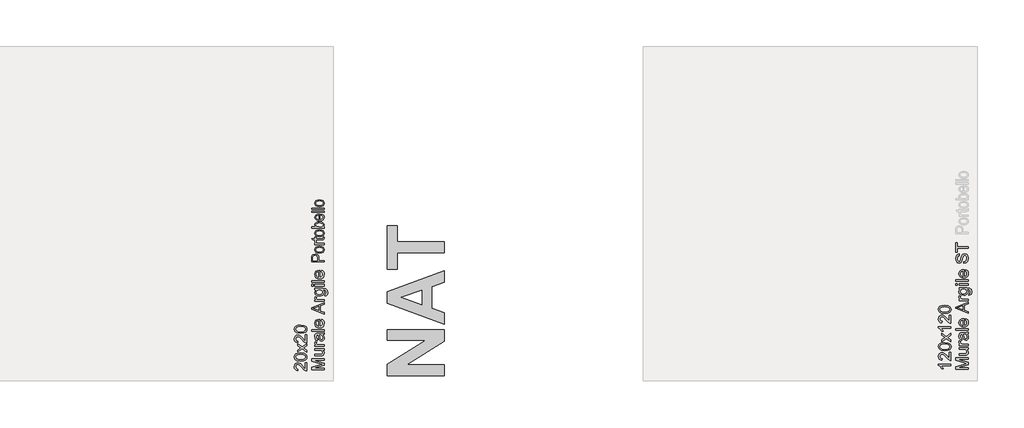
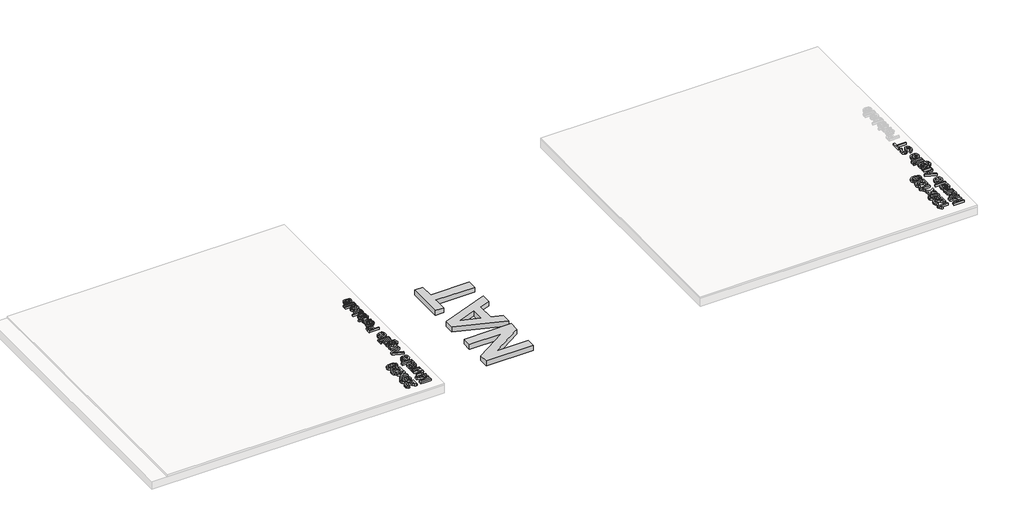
# One storey, part 9 of 21: 6 proxies.
"""IFC4 building model written with IfcOpenShell, lengths in millimetres."""

from ifc_helpers import new_model, si_unit, frame, origin, origin_with_axes, place, context, project, spatial, polyline, outline, extrude, element, save

model = new_model("IFC4")

# Units and contexts
model_context = context("Model", 3, world=origin())
ifc_project = project(units=[si_unit("LENGTHUNIT", "METRE", prefix="MILLI")], contexts=[model_context])

# Site, building, storey
site = spatial("IfcSite", under=ifc_project)
building = spatial("IfcBuilding", under=site)
storey = spatial("IfcBuildingStorey", under=building, Name="PORTOBELLO - SHOWROOM", Elevation=0.0)

# Proxies
placement = place(None, origin())
element("IfcBuildingElementProxy", 1, Name="10mm Arial", ObjectType="10mm Arial", at=placement, inside=storey, context=model_context, shape_type="SweptSolid", body=[
    extrude(outline(polyline([(17958.3969349, 10363.8882156), (17857.9406247, 10363.8882156), (17857.9406247, 10385.421575), (17928.7456461, 10406.0229667), (17943.5345023, 10410.192296), (17927.5193727, 10414.6804564), (17857.9406247, 10434.8894406), (17857.9406247, 10456.4963765), (17958.3969349, 10456.4963765), (17958.3969349, 10443.9393377), (17870.4976635, 10443.9393377), (17958.3969349, 10418.7026328), (17958.3969349, 10401.7064847), (17870.4976635, 10376.4452543), (17958.3969349, 10376.4452543), (17958.3969349, 10363.8882156)])), origin_with_axes(), (0.0, 0.0, 1.0), 20.0),
    extrude(outline(polyline([(17958.3969349, 10523.9904599), (17945.7172688, 10523.9904599), (17956.4042407, 10514.1557479), (17959.9665647, 10501.328929), (17957.4649672, 10489.5199169), (17951.1864478, 10481.3774621), (17941.940347, 10477.6373285), (17930.266225, 10476.9015645), (17884.6243321, 10476.9015645), (17884.6243321, 10489.4586032), (17924.3555876, 10489.4586032), (17937.157881, 10490.2188927), (17944.6749365, 10495.1852996), (17947.409526, 10504.541765), (17944.6136228, 10515.0264019), (17936.9984655, 10521.9548462), (17923.0066869, 10523.9904599), (17884.6243321, 10523.9904599), (17884.6243321, 10536.5474986), (17958.3969349, 10536.5474986), (17958.3969349, 10523.9904599)])), origin_with_axes(), (0.0, 0.0, 1.0), 20.0),
    extrude(outline(polyline([(17958.3969349, 10553.8134269), (17884.6243321, 10553.8134269), (17884.6243321, 10564.8008359), (17895.5381646, 10564.8008359), (17885.4827234, 10572.5999342), (17883.0547023, 10580.4480834), (17886.9297259, 10593.0541731), (17898.186915, 10588.8603183), (17895.611741, 10580.0311505), (17898.0888131, 10572.9310279), (17904.9559437, 10568.4060794), (17919.6221726, 10566.3704657), (17958.3969349, 10566.3704657), (17958.3969349, 10553.8134269)])), origin_with_axes(), (0.0, 0.0, 1.0), 20.0),
    extrude(outline(polyline([(17948.9791558, 10647.9912177), (17957.4894926, 10635.8143237), (17959.9665647, 10622.3621054), (17958.4766426, 10611.8682715), (17954.0068764, 10604.1274211), (17947.2194536, 10599.3541523), (17938.7765618, 10597.7630626), (17928.8437479, 10600.1665583), (17921.6332608, 10606.4818659), (17917.5129825, 10615.2742456), (17915.6245216, 10626.1390272), (17911.3080395, 10647.9176413), (17908.5121363, 10647.9912177), (17899.2415101, 10644.5331269), (17895.611741, 10630.651713), (17898.0274995, 10617.9475214), (17906.59915, 10611.8897312), (17905.0295201, 10599.3326925), (17892.7667869, 10604.7650833), (17885.5808253, 10615.7034413), (17883.0547023, 10632.2703938), (17885.2865197, 10647.4884456), (17890.8905888, 10656.0846216), (17899.4131883, 10659.9351198), (17910.4005972, 10660.5482565), (17926.0233193, 10660.5482565), (17947.8387216, 10661.1859186), (17958.3969349, 10663.6875162), (17958.3969349, 10651.1304774), (17948.9791558, 10647.9912177)]), holes=[polyline([(17923.8650783, 10647.9912177), (17927.7155765, 10627.7331825), (17929.7511902, 10616.9297146), (17933.0621281, 10612.036884), (17937.893645, 10610.3201014), (17944.6871992, 10614.060235), (17947.409526, 10625.0353812), (17944.4051563, 10637.7395728), (17937.1333556, 10645.9310785), (17927.4212709, 10647.9176413), (17923.8650783, 10647.9912177)])]), origin_with_axes(), (0.0, 0.0, 1.0), 20.0),
    extrude(outline(polyline([(17958.3969349, 10677.8141848), (17857.9406247, 10677.8141848), (17857.9406247, 10690.3712235), (17958.3969349, 10690.3712235), (17958.3969349, 10677.8141848)])), origin_with_axes(), (0.0, 0.0, 1.0), 20.0),
    extrude(outline(polyline([(17936.422117, 10760.8574138), (17937.9917469, 10773.1691979), (17947.2685045, 10768.7331542), (17954.2030801, 10761.6544915), (17958.5256936, 10752.0926253), (17959.9665647, 10740.2069712), (17957.4802956, 10725.4732972), (17950.0214881, 10714.1364004), (17938.0745203, 10706.9075192), (17922.1237702, 10704.4978922), (17905.6365254, 10706.9320447), (17893.3063472, 10714.2345023), (17885.6176135, 10725.4181149), (17883.0547023, 10739.4957326), (17885.6114821, 10753.1349576), (17893.2818217, 10764.0334617), (17905.5874745, 10771.1795695), (17922.0501938, 10773.5616054), (17925.4347081, 10773.488029), (17925.4347081, 10717.0549309), (17934.8340931, 10719.2285004), (17941.7441432, 10724.2776808), (17945.9931803, 10731.56481), (17947.409526, 10740.4522258), (17944.7853011, 10752.7640099), (17936.422117, 10760.8574138)]), holes=[polyline([(17912.8776693, 10717.0549309), (17912.8776693, 10761.0045666), (17901.497853, 10755.976846), (17897.083269, 10748.6559943), (17895.611741, 10739.4466817), (17900.3083678, 10723.9833752), (17905.7990066, 10719.1181358), (17912.8776693, 10717.0549309)])]), origin_with_axes(), (0.0, 0.0, 1.0), 20.0),
    extrude(outline(polyline([(17958.3969349, 10815.2548982), (17857.9406247, 10855.3540356), (17857.9406247, 10866.047139), (17958.3969349, 10906.121751), (17958.3969349, 10892.8534737), (17927.004338, 10881.3755554), (17927.004338, 10839.9765682), (17958.3969349, 10828.49865), (17958.3969349, 10815.2548982)]), holes=[polyline([(17914.4472992, 10844.5873559), (17914.4472992, 10876.7892932), (17889.7501546, 10867.7148707), (17870.4976635, 10860.6760618), (17887.5919135, 10854.4220679), (17914.4472992, 10844.5873559)])]), origin_with_axes(), (0.0, 0.0, 1.0), 20.0),
    extrude(outline(polyline([(17958.3969349, 10917.9675512), (17884.6243321, 10917.9675512), (17884.6243321, 10928.9549601), (17895.5381646, 10928.9549601), (17885.4827234, 10936.7540584), (17883.0547023, 10944.6022077), (17886.9297259, 10957.2082974), (17898.186915, 10953.0144426), (17895.611741, 10944.1852747), (17898.0888131, 10937.0851522), (17904.9559437, 10932.5602037), (17919.6221726, 10930.52459), (17958.3969349, 10930.52459), (17958.3969349, 10917.9675512)])), origin_with_axes(), (0.0, 0.0, 1.0), 20.0),
    extrude(outline(polyline([(17964.6754543, 10961.9171869), (17966.2450841, 10974.4742257), (17972.86696, 10978.5454531), (17975.6628632, 10990.7346099), (17972.499078, 11003.5859542), (17963.6208592, 11009.7173208), (17948.9791558, 11010.5757121), (17956.0424901, 11001.7342815), (17958.3969349, 10990.9553391), (17955.656214, 10978.0089585), (17947.4340514, 10968.3551218), (17935.3797847, 10962.3494483), (17921.1427515, 10960.3475571), (17901.681794, 10963.9405379), (17887.9107446, 10974.3393356), (17883.0547023, 10990.3422024), (17885.8015545, 11001.5442092), (17894.0421112, 11010.5757121), (17884.6243321, 11010.5757121), (17884.6243321, 11023.1327509), (17948.3169682, 11023.1327509), (17972.7075445, 11019.6991856), (17984.0505727, 11008.8221413), (17988.219902, 10990.4893552), (17986.7514397, 10978.8060362), (17982.3460528, 10969.6059206), (17974.9914785, 10963.7044803), (17964.6754543, 10961.9171869)]), holes=[polyline([(17920.2843602, 10972.9045958), (17931.8021323, 10974.2442994), (17939.7207923, 10978.2634102), (17944.3101201, 10984.305872), (17945.8398961, 10991.7156285), (17944.3193172, 10999.0702027), (17939.7575805, 11005.1433213), (17931.9400881, 11009.2176144), (17920.6522422, 11010.5757121), (17909.7660008, 11009.1777606), (17901.9270486, 11004.9839058), (17897.1905679, 10998.8218824), (17895.611741, 10991.5194248), (17897.1660425, 10984.3487916), (17901.8289468, 10978.3369866), (17909.551403, 10974.2626935), (17920.2843602, 10972.9045958)])]), origin_with_axes(), (0.0, 0.0, 1.0), 20.0),
    extrude(outline(polyline([(17870.4976635, 11041.9683091), (17857.9406247, 11041.9683091), (17857.9406247, 11054.5253478), (17870.4976635, 11054.5253478), (17870.4976635, 11041.9683091)])), origin_with_axes(), (0.0, 0.0, 1.0), 20.0),
    extrude(outline(polyline([(17958.3969349, 11041.9683091), (17884.6243321, 11041.9683091), (17884.6243321, 11054.5253478), (17958.3969349, 11054.5253478), (17958.3969349, 11041.9683091)])), origin_with_axes(), (0.0, 0.0, 1.0), 20.0),
    extrude(outline(polyline([(17958.3969349, 11073.360906), (17857.9406247, 11073.360906), (17857.9406247, 11085.9179448), (17958.3969349, 11085.9179448), (17958.3969349, 11073.360906)])), origin_with_axes(), (0.0, 0.0, 1.0), 20.0),
    extrude(outline(polyline([(17936.422117, 11156.404135), (17937.9917469, 11168.7159191), (17947.2685045, 11164.2798754), (17954.2030801, 11157.2012127), (17958.5256936, 11147.6393465), (17959.9665647, 11135.7536924), (17957.4802956, 11121.0200185), (17950.0214881, 11109.6831216), (17938.0745203, 11102.4542404), (17922.1237702, 11100.0446134), (17905.6365254, 11102.4787659), (17893.3063472, 11109.7812235), (17885.6176135, 11120.9648362), (17883.0547023, 11135.0424538), (17885.6114821, 11148.6816788), (17893.2818217, 11159.5801829), (17905.5874745, 11166.7262907), (17922.0501938, 11169.1083266), (17925.4347081, 11169.0347502), (17925.4347081, 11112.6016521), (17934.8340931, 11114.7752216), (17941.7441432, 11119.824402), (17945.9931803, 11127.1115312), (17947.409526, 11135.998947), (17944.7853011, 11148.3107311), (17936.422117, 11156.404135)]), holes=[polyline([(17912.8776693, 11112.6016521), (17912.8776693, 11156.5512878), (17901.497853, 11151.5235672), (17897.083269, 11144.2027155), (17895.611741, 11134.9934029), (17900.3083678, 11119.5300964), (17905.7990066, 11114.664857), (17912.8776693, 11112.6016521)])]), origin_with_axes(), (0.0, 0.0, 1.0), 20.0),
])
element("IfcBuildingElementProxy", 2, Name="10mm Arial", ObjectType="10mm Arial", at=placement, inside=storey, context=model_context, shape_type="SweptSolid", body=[
    extrude(outline(polyline([(17805.8398961, 10423.5341497), (17818.3969349, 10423.5341497), (17818.3969349, 10357.6096962), (17809.7394453, 10358.9585968), (17796.4098543, 10366.5982796), (17781.85399, 10382.3313662), (17760.9337672, 10403.9996158), (17746.7089968, 10409.4074811), (17735.1942903, 10404.2939214), (17730.4976635, 10390.9398049), (17735.0839257, 10377.0216028), (17747.7635918, 10371.7363648), (17746.193962, 10359.179326), (17734.0477248, 10362.2235495), (17725.1756373, 10368.8055716), (17719.7493779, 10378.5820356), (17717.9406247, 10391.2095851), (17719.951713, 10403.929105), (17725.9849777, 10413.687175), (17734.9980866, 10419.8951836), (17745.9487073, 10421.9645199), (17757.8558212, 10419.7327024), (17770.1676053, 10412.3137489), (17787.37222, 10394.3243193), (17799.4510121, 10379.8788196), (17805.8398961, 10374.2134369), (17805.8398961, 10423.5341497)])), origin_with_axes(), (0.0, 0.0, 1.0), 20.0),
    extrude(outline(polyline([(17768.9781202, 10436.0911885), (17740.0748581, 10439.7822712), (17723.4098037, 10450.7451546), (17717.9406247, 10469.0534152), (17721.1779863, 10483.7196441), (17730.5099262, 10493.8486617), (17745.3723588, 10499.7347736), (17768.9781202, 10502.015642), (17797.7587549, 10498.3613475), (17814.4605975, 10487.4352523), (17818.5900729, 10479.2038926), (17819.9665647, 10469.0534152), (17817.5753318, 10456.0058671), (17810.4016328, 10446.0975787), (17793.411616, 10438.592786), (17768.9781202, 10436.0911885)]), holes=[polyline([(17768.9535947, 10448.6482272), (17788.7057922, 10450.1197552), (17800.1377252, 10454.5343392), (17805.5915758, 10461.1071641), (17807.409526, 10469.0534152), (17805.5854444, 10476.9996663), (17800.1131997, 10483.5724913), (17788.6751354, 10487.9870753), (17768.9535947, 10489.4586032), (17749.6459213, 10488.0361262), (17738.1250835, 10483.7686951), (17732.4045185, 10477.2081328), (17730.4976635, 10468.9062624), (17732.1776579, 10461.0458505), (17737.2176413, 10454.7305429), (17749.455849, 10450.1688062), (17768.9535947, 10448.6482272)])]), origin_with_axes(), (0.0, 0.0, 1.0), 20.0),
    extrude(outline(polyline([(17818.3969349, 10508.2941614), (17781.2899043, 10535.1250216), (17744.6243321, 10509.8637912), (17744.6243321, 10524.9224276), (17762.3071933, 10537.1115844), (17770.6213264, 10542.826018), (17763.8032468, 10547.7801622), (17744.6243321, 10561.6615762), (17744.6243321, 10576.7692634), (17781.3144298, 10550.2327088), (17818.3969349, 10575.7882448), (17818.3969349, 10560.705083), (17796.0787605, 10545.3030901), (17791.9830076, 10542.5071869), (17818.3969349, 10523.4018487), (17818.3969349, 10508.2941614)])), origin_with_axes(), (0.0, 0.0, 1.0), 20.0),
    extrude(outline(polyline([(17805.8398961, 10647.9912177), (17818.3969349, 10647.9912177), (17818.3969349, 10582.0667642), (17809.7394453, 10583.4156648), (17796.4098543, 10591.0553476), (17781.85399, 10606.7884342), (17760.9337672, 10628.4566838), (17746.7089968, 10633.8645491), (17735.1942903, 10628.7509893), (17730.4976635, 10615.3968729), (17735.0839257, 10601.4786708), (17747.7635918, 10596.1934328), (17746.193962, 10583.636394), (17734.0477248, 10586.6806175), (17725.1756373, 10593.2626395), (17719.7493779, 10603.0391036), (17717.9406247, 10615.6666531), (17719.951713, 10628.386173), (17725.9849777, 10638.144243), (17734.9980866, 10644.3522516), (17745.9487073, 10646.4215879), (17757.8558212, 10644.1897704), (17770.1676053, 10636.7708168), (17787.37222, 10618.7813873), (17799.4510121, 10604.3358876), (17805.8398961, 10598.6705049), (17805.8398961, 10647.9912177)])), origin_with_axes(), (0.0, 0.0, 1.0), 20.0),
    extrude(outline(polyline([(17768.9781202, 10660.5482565), (17740.0748581, 10664.2393392), (17723.4098037, 10675.2022226), (17717.9406247, 10693.5104832), (17721.1779863, 10708.1767121), (17730.5099262, 10718.3057297), (17745.3723588, 10724.1918416), (17768.9781202, 10726.47271), (17797.7587549, 10722.8184155), (17814.4605975, 10711.8923203), (17818.5900729, 10703.6609606), (17819.9665647, 10693.5104832), (17817.5753318, 10680.4629351), (17810.4016328, 10670.5546467), (17793.411616, 10663.049854), (17768.9781202, 10660.5482565)]), holes=[polyline([(17768.9535947, 10673.1052952), (17788.7057922, 10674.5768232), (17800.1377252, 10678.9914072), (17805.5915758, 10685.5642321), (17807.409526, 10693.5104832), (17805.5854444, 10701.4567343), (17800.1131997, 10708.0295593), (17788.6751354, 10712.4441433), (17768.9535947, 10713.9156712), (17749.6459213, 10712.4931942), (17738.1250835, 10708.225763), (17732.4045185, 10701.6652008), (17730.4976635, 10693.3633304), (17732.1776579, 10685.5029185), (17737.2176413, 10679.1876109), (17749.455849, 10674.6258741), (17768.9535947, 10673.1052952)])]), origin_with_axes(), (0.0, 0.0, 1.0), 20.0),
])
element("IfcBuildingElementProxy", 3, Name="10mm Arial", ObjectType="10mm Arial", at=placement, inside=storey, context=model_context, shape_type="SweptSolid", body=[
    extrude(outline(polyline([(23159.4374935, 10369.8696803), (23058.9811833, 10369.8696803), (23058.9811833, 10391.4030397), (23129.7862046, 10412.0044314), (23144.5750608, 10416.1737607), (23128.5599313, 10420.6619211), (23058.9811833, 10440.8709053), (23058.9811833, 10462.4778412), (23159.4374935, 10462.4778412), (23159.4374935, 10449.9208024), (23071.5382221, 10449.9208024), (23159.4374935, 10424.6840975), (23159.4374935, 10407.6879494), (23071.5382221, 10382.426719), (23159.4374935, 10382.426719), (23159.4374935, 10369.8696803)])), frame((0.0, 0.0, 17.0), z_axis=(0.0, 0.0, 1.0), x_axis=(1.0, 0.0, 0.0)), (0.0, 0.0, 1.0), 20.0),
    extrude(outline(polyline([(23159.4374935, 10529.9719246), (23146.7578274, 10529.9719246), (23157.4447993, 10520.1372126), (23161.0071233, 10507.3103937), (23158.5055257, 10495.5013816), (23152.2270063, 10487.3589268), (23142.9809055, 10483.6187932), (23131.3067836, 10482.8830292), (23085.6648907, 10482.8830292), (23085.6648907, 10495.4400679), (23125.3961462, 10495.4400679), (23138.1984396, 10496.2003574), (23145.715495, 10501.1667643), (23148.4500845, 10510.5232297), (23145.6541814, 10521.0078666), (23138.0390241, 10527.9363109), (23124.0472455, 10529.9719246), (23085.6648907, 10529.9719246), (23085.6648907, 10542.5289633), (23159.4374935, 10542.5289633), (23159.4374935, 10529.9719246)])), frame((0.0, 0.0, 17.0), z_axis=(0.0, 0.0, 1.0), x_axis=(1.0, 0.0, 0.0)), (0.0, 0.0, 1.0), 20.0),
    extrude(outline(polyline([(23159.4374935, 10559.7948916), (23085.6648907, 10559.7948916), (23085.6648907, 10570.7823006), (23096.5787232, 10570.7823006), (23086.523282, 10578.5813989), (23084.0952608, 10586.4295481), (23087.9702845, 10599.0356378), (23099.2274736, 10594.841783), (23096.6522996, 10586.0126152), (23099.1293717, 10578.9124927), (23105.9965023, 10574.3875441), (23120.6627312, 10572.3519304), (23159.4374935, 10572.3519304), (23159.4374935, 10559.7948916)])), frame((0.0, 0.0, 17.0), z_axis=(0.0, 0.0, 1.0), x_axis=(1.0, 0.0, 0.0)), (0.0, 0.0, 1.0), 20.0),
    extrude(outline(polyline([(23150.0197144, 10653.9726824), (23158.5300512, 10641.7957884), (23161.0071233, 10628.3435701), (23159.5172012, 10617.8497362), (23155.047435, 10610.1088858), (23148.2600122, 10605.335617), (23139.8171204, 10603.7445273), (23129.8843065, 10606.148023), (23122.6738194, 10612.4633306), (23118.5535411, 10621.2557103), (23116.6650801, 10632.1204919), (23112.3485981, 10653.899106), (23109.5526949, 10653.9726824), (23100.2820686, 10650.5145916), (23096.6522996, 10636.6331777), (23099.068058, 10623.9289861), (23107.6397085, 10617.8711959), (23106.0700787, 10605.3141572), (23093.8073455, 10610.746548), (23086.6213839, 10621.684906), (23084.0952608, 10638.2518585), (23086.3270783, 10653.4699103), (23091.9311473, 10662.0660863), (23100.4537469, 10665.9165845), (23111.4411558, 10666.5297212), (23127.0638779, 10666.5297212), (23148.8792802, 10667.1673833), (23159.4374935, 10669.6689809), (23159.4374935, 10657.1119421), (23150.0197144, 10653.9726824)]), holes=[polyline([(23124.9056368, 10653.9726824), (23128.7561351, 10633.7146472), (23130.7917488, 10622.9111793), (23134.1026867, 10618.0183487), (23138.9342036, 10616.3015661), (23145.7277578, 10620.0416997), (23148.4500845, 10631.0168459), (23145.4457149, 10643.7210375), (23138.1739141, 10651.9125432), (23128.4618295, 10653.899106), (23124.9056368, 10653.9726824)])]), frame((0.0, 0.0, 17.0), z_axis=(0.0, 0.0, 1.0), x_axis=(1.0, 0.0, 0.0)), (0.0, 0.0, 1.0), 20.0),
    extrude(outline(polyline([(23159.4374935, 10683.7956495), (23058.9811833, 10683.7956495), (23058.9811833, 10696.3526882), (23159.4374935, 10696.3526882), (23159.4374935, 10683.7956495)])), frame((0.0, 0.0, 17.0), z_axis=(0.0, 0.0, 1.0), x_axis=(1.0, 0.0, 0.0)), (0.0, 0.0, 1.0), 20.0),
    extrude(outline(polyline([(23137.4626756, 10766.8388785), (23139.0323055, 10779.1506626), (23148.3090631, 10774.7146189), (23155.2436387, 10767.6359562), (23159.5662521, 10758.07409), (23161.0071233, 10746.1884359), (23158.5208541, 10731.454762), (23151.0620467, 10720.1178651), (23139.1150789, 10712.8889839), (23123.1643287, 10710.4793569), (23106.677084, 10712.9135094), (23094.3469058, 10720.215967), (23086.6581721, 10731.3995797), (23084.0952608, 10745.4771973), (23086.6520407, 10759.1164223), (23094.3223803, 10770.0149264), (23106.628033, 10777.1610342), (23123.0907523, 10779.5430701), (23126.4752667, 10779.4694937), (23126.4752667, 10723.0363956), (23135.8746517, 10725.2099651), (23142.7847018, 10730.2591455), (23147.0337388, 10737.5462747), (23148.4500845, 10746.4336905), (23145.8258596, 10758.7454746), (23137.4626756, 10766.8388785)]), holes=[polyline([(23113.9182279, 10723.0363956), (23113.9182279, 10766.9860313), (23102.5384115, 10761.9583107), (23098.1238276, 10754.637459), (23096.6522996, 10745.4281464), (23101.3489264, 10729.9648399), (23106.8395652, 10725.0996005), (23113.9182279, 10723.0363956)])]), frame((0.0, 0.0, 17.0), z_axis=(0.0, 0.0, 1.0), x_axis=(1.0, 0.0, 0.0)), (0.0, 0.0, 1.0), 20.0),
    extrude(outline(polyline([(23159.4374935, 10821.2363629), (23058.9811833, 10861.3355003), (23058.9811833, 10872.0286037), (23159.4374935, 10912.1032157), (23159.4374935, 10898.8349384), (23128.0448965, 10887.3570201), (23128.0448965, 10845.9580329), (23159.4374935, 10834.4801147), (23159.4374935, 10821.2363629)]), holes=[polyline([(23115.4878578, 10850.5688206), (23115.4878578, 10882.7707579), (23090.7907132, 10873.6963354), (23071.5382221, 10866.6575265), (23088.6324721, 10860.4035326), (23115.4878578, 10850.5688206)])]), frame((0.0, 0.0, 17.0), z_axis=(0.0, 0.0, 1.0), x_axis=(1.0, 0.0, 0.0)), (0.0, 0.0, 1.0), 20.0),
    extrude(outline(polyline([(23159.4374935, 10923.9490159), (23085.6648907, 10923.9490159), (23085.6648907, 10934.9364248), (23096.5787232, 10934.9364248), (23086.523282, 10942.7355231), (23084.0952608, 10950.5836724), (23087.9702845, 10963.1897621), (23099.2274736, 10958.9959073), (23096.6522996, 10950.1667395), (23099.1293717, 10943.0666169), (23105.9965023, 10938.5416684), (23120.6627312, 10936.5060547), (23159.4374935, 10936.5060547), (23159.4374935, 10923.9490159)])), frame((0.0, 0.0, 17.0), z_axis=(0.0, 0.0, 1.0), x_axis=(1.0, 0.0, 0.0)), (0.0, 0.0, 1.0), 20.0),
    extrude(outline(polyline([(23165.7160128, 10967.8986516), (23167.2856427, 10980.4556904), (23173.9075186, 10984.5269178), (23176.7034218, 10996.7160746), (23173.5396366, 11009.5674189), (23164.6614178, 11015.6987855), (23150.0197144, 11016.5571768), (23157.0830487, 11007.7157462), (23159.4374935, 10996.9368038), (23156.6967726, 10983.9904232), (23148.47461, 10974.3365865), (23136.4203433, 10968.330913), (23122.1833101, 10966.3290218), (23102.7223525, 10969.9220026), (23088.9513032, 10980.3208003), (23084.0952608, 10996.3236671), (23086.8421131, 11007.5256739), (23095.0826698, 11016.5571768), (23085.6648907, 11016.5571768), (23085.6648907, 11029.1142156), (23149.3575268, 11029.1142156), (23173.7481031, 11025.6806503), (23185.0911312, 11014.803606), (23189.2604605, 10996.4708199), (23187.7919982, 10984.7875009), (23183.3866113, 10975.5873853), (23176.0320371, 10969.685945), (23165.7160128, 10967.8986516)]), holes=[polyline([(23121.3249188, 10978.8860605), (23132.8426909, 10980.2257641), (23140.7613508, 10984.2448749), (23145.3506787, 10990.2873367), (23146.8804547, 10997.6970932), (23145.3598758, 11005.0516674), (23140.798139, 11011.1247861), (23132.9806466, 11015.1990791), (23121.6928007, 11016.5571768), (23110.8065594, 11015.1592253), (23102.9676072, 11010.9653705), (23098.2311265, 11004.8033471), (23096.6522996, 10997.5008895), (23098.206601, 10990.3302563), (23102.8695053, 10984.3184513), (23110.5919615, 10980.2441582), (23121.3249188, 10978.8860605)])]), frame((0.0, 0.0, 17.0), z_axis=(0.0, 0.0, 1.0), x_axis=(1.0, 0.0, 0.0)), (0.0, 0.0, 1.0), 20.0),
    extrude(outline(polyline([(23071.5382221, 11047.9497738), (23058.9811833, 11047.9497738), (23058.9811833, 11060.5068125), (23071.5382221, 11060.5068125), (23071.5382221, 11047.9497738)])), frame((0.0, 0.0, 17.0), z_axis=(0.0, 0.0, 1.0), x_axis=(1.0, 0.0, 0.0)), (0.0, 0.0, 1.0), 20.0),
    extrude(outline(polyline([(23159.4374935, 11047.9497738), (23085.6648907, 11047.9497738), (23085.6648907, 11060.5068125), (23159.4374935, 11060.5068125), (23159.4374935, 11047.9497738)])), frame((0.0, 0.0, 17.0), z_axis=(0.0, 0.0, 1.0), x_axis=(1.0, 0.0, 0.0)), (0.0, 0.0, 1.0), 20.0),
    extrude(outline(polyline([(23159.4374935, 11079.3423707), (23058.9811833, 11079.3423707), (23058.9811833, 11091.8994095), (23159.4374935, 11091.8994095), (23159.4374935, 11079.3423707)])), frame((0.0, 0.0, 17.0), z_axis=(0.0, 0.0, 1.0), x_axis=(1.0, 0.0, 0.0)), (0.0, 0.0, 1.0), 20.0),
    extrude(outline(polyline([(23137.4626756, 11162.3855997), (23139.0323055, 11174.6973838), (23148.3090631, 11170.2613401), (23155.2436387, 11163.1826774), (23159.5662521, 11153.6208112), (23161.0071233, 11141.7351571), (23158.5208541, 11127.0014832), (23151.0620467, 11115.6645863), (23139.1150789, 11108.4357051), (23123.1643287, 11106.0260781), (23106.677084, 11108.4602306), (23094.3469058, 11115.7626882), (23086.6581721, 11126.9463009), (23084.0952608, 11141.0239185), (23086.6520407, 11154.6631435), (23094.3223803, 11165.5616476), (23106.628033, 11172.7077554), (23123.0907523, 11175.0897913), (23126.4752667, 11175.0162149), (23126.4752667, 11118.5831168), (23135.8746517, 11120.7566863), (23142.7847018, 11125.8058667), (23147.0337388, 11133.0929959), (23148.4500845, 11141.9804117), (23145.8258596, 11154.2921958), (23137.4626756, 11162.3855997)]), holes=[polyline([(23113.9182279, 11118.5831168), (23113.9182279, 11162.5327525), (23102.5384115, 11157.5050319), (23098.1238276, 11150.1841802), (23096.6522996, 11140.9748676), (23101.3489264, 11125.5115611), (23106.8395652, 11120.6463217), (23113.9182279, 11118.5831168)])]), frame((0.0, 0.0, 17.0), z_axis=(0.0, 0.0, 1.0), x_axis=(1.0, 0.0, 0.0)), (0.0, 0.0, 1.0), 20.0),
    extrude(outline(polyline([(23124.9056368, 11223.7483165), (23124.9056368, 11236.3053553), (23137.4749383, 11240.3520572), (23145.4211894, 11250.2358202), (23148.4500845, 11265.2944565), (23146.1569534, 11278.415581), (23139.8539086, 11286.8891296), (23131.4294109, 11289.6727701), (23123.5935244, 11287.5881054), (23117.8913535, 11279.0532431), (23113.0966248, 11260.769508), (23106.9039445, 11241.0878212), (23097.5597419, 11230.4069806), (23085.0762795, 11226.8875762), (23070.8637717, 11231.2408465), (23060.832856, 11243.9573008), (23057.4115535, 11262.5721298), (23060.9922715, 11282.4377575), (23071.5136966, 11295.6815093), (23087.2345205, 11300.660179), (23087.2345205, 11288.1031402), (23079.7419906, 11285.7977464), (23074.3341252, 11280.990755), (23069.9685922, 11263.0626391), (23074.2850743, 11245.0854723), (23084.7083975, 11239.444615), (23093.414938, 11243.442266), (23100.4292214, 11263.9455559), (23106.7322663, 11286.1656284), (23116.9103348, 11298.317997), (23131.1105798, 11302.2298088), (23146.132428, 11297.7293858), (23157.0953114, 11284.7799395), (23161.0071233, 11265.7849658), (23156.7887431, 11243.3564269), (23144.0845515, 11229.1684446), (23124.9056368, 11223.7483165)])), frame((0.0, 0.0, 17.0), z_axis=(0.0, 0.0, 1.0), x_axis=(1.0, 0.0, 0.0)), (0.0, 0.0, 1.0), 20.0),
    extrude(outline(polyline([(23159.4374935, 11346.1794445), (23071.5382221, 11346.1794445), (23071.5382221, 11313.2172178), (23058.9811833, 11313.2172178), (23058.9811833, 11391.6987101), (23071.5382221, 11391.6987101), (23071.5382221, 11358.7364833), (23159.4374935, 11358.7364833), (23159.4374935, 11346.1794445)])), frame((0.0, 0.0, 17.0), z_axis=(0.0, 0.0, 1.0), x_axis=(1.0, 0.0, 0.0)), (0.0, 0.0, 1.0), 20.0),
])
element("IfcBuildingElementProxy", 4, Name="10mm Arial", ObjectType="10mm Arial", at=placement, inside=storey, context=model_context, shape_type="SweptSolid", body=[
    extrude(outline(polyline([(23019.4374935, 10412.2496861), (23019.4374935, 10399.6926473), (22941.1522049, 10399.6926473), (22949.6257535, 10387.7977962), (22955.9655865, 10374.5785698), (22944.0952608, 10374.5785698), (22932.3475625, 10392.9849323), (22918.9811833, 10404.1562822), (22918.9811833, 10412.2496861), (23019.4374935, 10412.2496861)])), frame((0.0, 0.0, 17.0), z_axis=(0.0, 0.0, 1.0), x_axis=(1.0, 0.0, 0.0)), (0.0, 0.0, 1.0), 20.0),
    extrude(outline(polyline([(23006.8804547, 10506.4274769), (23019.4374935, 10506.4274769), (23019.4374935, 10440.5030233), (23010.7800038, 10441.851924), (22997.4504129, 10449.4916067), (22982.8945486, 10465.2246934), (22961.9743258, 10486.8929429), (22947.7495553, 10492.3008083), (22936.2348489, 10487.1872485), (22931.5382221, 10473.8331321), (22936.1244843, 10459.9149299), (22948.8041504, 10454.6296919), (22947.2345205, 10442.0726532), (22935.0882833, 10445.1168767), (22926.2161959, 10451.6988987), (22920.7899364, 10461.4753627), (22918.9811833, 10474.1029122), (22920.9922715, 10486.8224322), (22927.0255363, 10496.5805021), (22936.0386451, 10502.7885108), (22946.9892659, 10504.857847), (22958.8963798, 10502.6260296), (22971.2081639, 10495.207076), (22988.4127785, 10477.2176465), (23000.4915707, 10462.7721468), (23006.8804547, 10457.106764), (23006.8804547, 10506.4274769)])), frame((0.0, 0.0, 17.0), z_axis=(0.0, 0.0, 1.0), x_axis=(1.0, 0.0, 0.0)), (0.0, 0.0, 1.0), 20.0),
    extrude(outline(polyline([(22970.0186788, 10518.9845156), (22941.1154167, 10522.6755983), (22924.4503623, 10533.6384818), (22918.9811833, 10551.9467424), (22922.2185449, 10566.6129713), (22931.5504848, 10576.7419889), (22946.4129174, 10582.6281008), (22970.0186788, 10584.9089692), (22998.7993135, 10581.2546747), (23015.5011561, 10570.3285794), (23019.6306315, 10562.0972198), (23021.0071233, 10551.9467424), (23018.6158903, 10538.8991943), (23011.4421914, 10528.9909059), (22994.4521746, 10521.4861132), (22970.0186788, 10518.9845156)]), holes=[polyline([(22969.9941533, 10531.5415544), (22989.7463508, 10533.0130824), (23001.1782838, 10537.4276663), (23006.6321343, 10544.0004913), (23008.4500845, 10551.9467424), (23006.626003, 10559.8929935), (23001.1537583, 10566.4658185), (22989.7156939, 10570.8804024), (22969.9941533, 10572.3519304), (22950.6864799, 10570.9294534), (22939.1656421, 10566.6620222), (22933.4450771, 10560.10146), (22931.5382221, 10551.7995896), (22933.2182165, 10543.9391776), (22938.2581998, 10537.6238701), (22950.4964076, 10533.0621333), (22969.9941533, 10531.5415544)])]), frame((0.0, 0.0, 17.0), z_axis=(0.0, 0.0, 1.0), x_axis=(1.0, 0.0, 0.0)), (0.0, 0.0, 1.0), 20.0),
    extrude(outline(polyline([(23019.4374935, 10591.1874886), (22982.3304629, 10618.0183487), (22945.6648907, 10592.7571184), (22945.6648907, 10607.8157547), (22963.3477519, 10620.0049115), (22971.661885, 10625.7193452), (22964.8438054, 10630.6734894), (22945.6648907, 10644.5549033), (22945.6648907, 10659.6625906), (22982.3549883, 10633.126036), (23019.4374935, 10658.6815719), (23019.4374935, 10643.5984101), (22997.1193191, 10628.1964173), (22993.0235662, 10625.4005141), (23019.4374935, 10606.2951758), (23019.4374935, 10591.1874886)])), frame((0.0, 0.0, 17.0), z_axis=(0.0, 0.0, 1.0), x_axis=(1.0, 0.0, 0.0)), (0.0, 0.0, 1.0), 20.0),
    extrude(outline(polyline([(23019.4374935, 10713.6186166), (23019.4374935, 10701.0615778), (22941.1522049, 10701.0615778), (22949.6257535, 10689.1667266), (22955.9655865, 10675.9475002), (22944.0952608, 10675.9475002), (22932.3475625, 10694.3538627), (22918.9811833, 10705.5252127), (22918.9811833, 10713.6186166), (23019.4374935, 10713.6186166)])), frame((0.0, 0.0, 17.0), z_axis=(0.0, 0.0, 1.0), x_axis=(1.0, 0.0, 0.0)), (0.0, 0.0, 1.0), 20.0),
    extrude(outline(polyline([(23006.8804547, 10807.7964073), (23019.4374935, 10807.7964073), (23019.4374935, 10741.8719538), (23010.7800038, 10743.2208544), (22997.4504129, 10750.8605372), (22982.8945486, 10766.5936239), (22961.9743258, 10788.2618734), (22947.7495553, 10793.6697387), (22936.2348489, 10788.556179), (22931.5382221, 10775.2020625), (22936.1244843, 10761.2838604), (22948.8041504, 10755.9986224), (22947.2345205, 10743.4415836), (22935.0882833, 10746.4858071), (22926.2161959, 10753.0678292), (22920.7899364, 10762.8442932), (22918.9811833, 10775.4718427), (22920.9922715, 10788.1913627), (22927.0255363, 10797.9494326), (22936.0386451, 10804.1574412), (22946.9892659, 10806.2267775), (22958.8963798, 10803.99496), (22971.2081639, 10796.5760065), (22988.4127785, 10778.5865769), (23000.4915707, 10764.1410772), (23006.8804547, 10758.4756945), (23006.8804547, 10807.7964073)])), frame((0.0, 0.0, 17.0), z_axis=(0.0, 0.0, 1.0), x_axis=(1.0, 0.0, 0.0)), (0.0, 0.0, 1.0), 20.0),
    extrude(outline(polyline([(22970.0186788, 10820.3534461), (22941.1154167, 10824.0445288), (22924.4503623, 10835.0074122), (22918.9811833, 10853.3156729), (22922.2185449, 10867.9819017), (22931.5504848, 10878.1109193), (22946.4129174, 10883.9970313), (22970.0186788, 10886.2778996), (22998.7993135, 10882.6236051), (23015.5011561, 10871.6975099), (23019.6306315, 10863.4661502), (23021.0071233, 10853.3156729), (23018.6158903, 10840.2681248), (23011.4421914, 10830.3598364), (22994.4521746, 10822.8550437), (22970.0186788, 10820.3534461)]), holes=[polyline([(22969.9941533, 10832.9104849), (22989.7463508, 10834.3820128), (23001.1782838, 10838.7965968), (23006.6321343, 10845.3694218), (23008.4500845, 10853.3156729), (23006.626003, 10861.2619239), (23001.1537583, 10867.8347489), (22989.7156939, 10872.2493329), (22969.9941533, 10873.7208609), (22950.6864799, 10872.2983838), (22939.1656421, 10868.0309527), (22933.4450771, 10861.4703904), (22931.5382221, 10853.1685201), (22933.2182165, 10845.3081081), (22938.2581998, 10838.9928005), (22950.4964076, 10834.4310638), (22969.9941533, 10832.9104849)])]), frame((0.0, 0.0, 17.0), z_axis=(0.0, 0.0, 1.0), x_axis=(1.0, 0.0, 0.0)), (0.0, 0.0, 1.0), 20.0),
])
element("IfcBuildingElementProxy", 5, Name="10mm Arial Narrow", ObjectType="10mm Arial Narrow", at=placement, inside=storey, context=model_context, shape_type="SweptSolid", body=[
    extrude(outline(polyline([(17958.3969349, 11236.2021152), (17857.6783311, 11236.2021152), (17857.6783311, 11267.4989999), (17859.5566519, 11283.7947014), (17869.037095, 11295.2676875), (17886.0562039, 11299.5573659), (17898.1320294, 11297.7710575), (17907.7584232, 11292.4121323), (17914.0596816, 11282.6683435), (17916.160101, 11267.7274443), (17916.160101, 11245.9490768), (17958.3969349, 11245.9490768), (17958.3969349, 11236.2021152)]), holes=[polyline([(17904.7886458, 11245.9490768), (17904.7886458, 11268.9204318), (17900.2578316, 11284.7846272), (17886.5892408, 11289.8104043), (17876.4234644, 11287.3355898), (17870.6235146, 11281.357961), (17869.0497864, 11268.6919874), (17869.0497864, 11245.9490768), (17904.7886458, 11245.9490768)])]), origin_with_axes(), (0.0, 0.0, 1.0), 20.0),
    extrude(outline(polyline([(17921.8458287, 11307.679834), (17905.2550531, 11309.6343028), (17893.3029683, 11315.4977095), (17886.0784137, 11324.3562762), (17883.6702289, 11335.2962253), (17886.0784137, 11346.1092609), (17893.3029683, 11354.9932103), (17905.0646828, 11360.9327651), (17921.0843473, 11362.9126167), (17938.2462339, 11360.9676663), (17950.388689, 11355.1328153), (17957.6132436, 11346.2837671), (17960.0214285, 11335.2962253), (17957.6068979, 11324.4355972), (17950.3633063, 11315.5611663), (17938.4048758, 11309.650167), (17921.8458287, 11307.679834)]), holes=[polyline([(17921.820446, 11317.4267956), (17934.3721974, 11318.7308325), (17943.2434554, 11322.6429431), (17948.516714, 11328.4841398), (17950.2744668, 11335.5754352), (17948.5008498, 11342.2955083), (17943.1799987, 11347.9875816), (17934.2928764, 11351.8711367), (17921.820446, 11353.165655), (17909.3067686, 11351.8616182), (17900.4482019, 11347.9495076), (17895.1749434, 11342.1083108), (17893.4171905, 11335.0170155), (17895.1844619, 11328.2493497), (17900.486276, 11322.5667949), (17909.3543612, 11318.7117955), (17921.820446, 11317.4267956)])]), origin_with_axes(), (0.0, 0.0, 1.0), 20.0),
    extrude(outline(polyline([(17950.2744668, 11434.3903355), (17960.0214285, 11436.0148291), (17960.0214285, 11428.6538424), (17957.901972, 11420.3790781), (17952.1020221, 11416.0640169), (17937.456197, 11414.8964122), (17895.0416841, 11414.8964122), (17895.0416841, 11406.7739441), (17891.7926969, 11406.7739441), (17896.6661777, 11405.1494505), (17895.0416841, 11397.5854021), (17897.3642023, 11391.5062425), (17903.8494854, 11387.6353788), (17919.256792, 11385.6555272), (17958.3969349, 11385.6555272), (17958.3969349, 11375.9085656), (17885.2947225, 11375.9085656), (17885.2947225, 11385.6555272), (17894.9909187, 11385.6555272), (17885.9039076, 11391.8996745), (17883.6702289, 11398.2961181), (17885.2947225, 11406.7739441), (17885.2947225, 11414.8964122), (17869.0497864, 11414.8964122), (17860.9273183, 11424.6433738), (17885.2947225, 11424.6433738), (17885.2947225, 11434.3903355), (17895.0416841, 11434.3903355), (17895.0416841, 11424.6433738), (17939.6898757, 11424.6433738), (17947.6854301, 11425.506386), (17950.2744668, 11430.1260397), (17950.2744668, 11434.3903355)])), origin_with_axes(), (0.0, 0.0, 1.0), 20.0),
    extrude(outline(polyline([(17921.8458287, 11440.8883099), (17905.2550531, 11442.8427788), (17893.3029683, 11448.7061854), (17886.0784137, 11457.5647521), (17883.6702289, 11468.5047013), (17886.0784137, 11479.3177368), (17893.3029683, 11488.2016863), (17905.0646828, 11494.141241), (17921.0843473, 11496.1210926), (17938.2462339, 11494.1761423), (17950.388689, 11488.3412912), (17957.6132436, 11479.492243), (17960.0214285, 11468.5047013), (17957.6068979, 11457.6440731), (17950.3633063, 11448.7696422), (17938.4048758, 11442.858643), (17921.8458287, 11440.8883099)]), holes=[polyline([(17921.820446, 11450.6352716), (17934.3721974, 11451.9393084), (17943.2434554, 11455.851419), (17948.516714, 11461.6926158), (17950.2744668, 11468.7839111), (17948.5008498, 11475.5039843), (17943.1799987, 11481.1960576), (17934.2928764, 11485.0796126), (17921.820446, 11486.374131), (17909.3067686, 11485.0700941), (17900.4482019, 11481.1579835), (17895.1749434, 11475.3167868), (17893.4171905, 11468.2254914), (17895.1844619, 11461.4578257), (17900.486276, 11455.7752709), (17909.3543612, 11451.9202714), (17921.820446, 11450.6352716)])]), origin_with_axes(), (0.0, 0.0, 1.0), 20.0),
    extrude(outline(polyline([(17958.3969349, 11518.8640031), (17958.3969349, 11509.1170415), (17857.6783311, 11509.1170415), (17857.6783311, 11518.8640031), (17893.0872153, 11518.8640031), (17886.0054384, 11526.2630639), (17883.6702289, 11535.4642972), (17887.8710678, 11548.3460239), (17900.6004982, 11557.6234053), (17921.287409, 11561.100837), (17937.7417525, 11559.168578), (17949.9444916, 11553.371801), (17957.5021943, 11544.9986786), (17960.0214285, 11535.3373836), (17957.4070091, 11525.9965454), (17949.639899, 11518.8640031), (17958.3969349, 11518.8640031)]), holes=[polyline([(17921.287409, 11518.8640031), (17938.5349622, 11520.9453856), (17947.2666154, 11526.8341749), (17950.2744668, 11535.2866182), (17948.4849856, 11541.2293458), (17943.1165419, 11546.4677031), (17921.6935324, 11551.3538753), (17900.2578316, 11546.6453821), (17895.1273508, 11541.4006791), (17893.4171905, 11535.0835565), (17895.2066718, 11529.1059277), (17900.5751155, 11523.8136321), (17921.287409, 11518.8640031)])]), origin_with_axes(), (0.0, 0.0, 1.0), 20.0),
    extrude(outline(polyline([(17935.6540244, 11613.0846325), (17937.278518, 11622.8315941), (17947.1650845, 11619.1320637), (17954.2849354, 11613.3130769), (17958.5873052, 11605.6094236), (17960.0214285, 11596.255894), (17957.6068979, 11584.66234), (17950.3633063, 11575.5182177), (17938.5571721, 11569.578663), (17922.4550138, 11567.5988114), (17905.7880901, 11569.5881815), (17893.6075609, 11575.5562918), (17886.1545619, 11584.5703276), (17883.6702289, 11595.6974743), (17886.0688952, 11606.3804235), (17893.2648942, 11615.1279408), (17905.0043988, 11620.9627919), (17921.0335819, 11622.9077422), (17924.2825691, 11622.8315941), (17924.2825691, 11577.3457731), (17943.725727, 11583.3487846), (17948.6372819, 11589.2788208), (17950.2744668, 11596.3828075), (17946.6193562, 11606.5612753), (17935.6540244, 11613.0846325)]), holes=[polyline([(17914.5356074, 11578.0057236), (17914.5356074, 11613.0846325), (17900.2705229, 11608.8203367), (17895.1305236, 11602.9950042), (17893.4171905, 11595.7736224), (17899.1283009, 11583.5645377), (17914.5356074, 11578.0057236)])]), origin_with_axes(), (0.0, 0.0, 1.0), 20.0),
    extrude(outline(polyline([(17958.3969349, 11635.827543), (17857.6783311, 11635.827543), (17857.6783311, 11645.5745046), (17958.3969349, 11645.5745046), (17958.3969349, 11635.827543)])), origin_with_axes(), (0.0, 0.0, 1.0), 20.0),
    extrude(outline(polyline([(17958.3969349, 11661.8194407), (17857.6783311, 11661.8194407), (17857.6783311, 11671.5664024), (17958.3969349, 11671.5664024), (17958.3969349, 11661.8194407)])), origin_with_axes(), (0.0, 0.0, 1.0), 20.0),
    extrude(outline(polyline([(17921.8458287, 11682.9378576), (17905.2550531, 11684.8923265), (17893.3029683, 11690.7557331), (17886.0784137, 11699.6142998), (17883.6702289, 11710.554249), (17886.0784137, 11721.3672846), (17893.3029683, 11730.251234), (17905.0646828, 11736.1907888), (17921.0843473, 11738.1706403), (17938.2462339, 11736.22569), (17950.388689, 11730.3908389), (17957.6132436, 11721.5417907), (17960.0214285, 11710.554249), (17957.6068979, 11699.6936208), (17950.3633063, 11690.8191899), (17938.4048758, 11684.9081907), (17921.8458287, 11682.9378576)]), holes=[polyline([(17921.820446, 11692.6848193), (17934.3721974, 11693.9888562), (17943.2434554, 11697.9009667), (17948.516714, 11703.7421635), (17950.2744668, 11710.8334588), (17948.5008498, 11717.553532), (17943.1799987, 11723.2456053), (17934.2928764, 11727.1291603), (17921.820446, 11728.4236787), (17909.3067686, 11727.1196418), (17900.4482019, 11723.2075312), (17895.1749434, 11717.3663345), (17893.4171905, 11710.2750391), (17895.1844619, 11703.5073734), (17900.486276, 11697.8248186), (17909.3543612, 11693.9698191), (17921.820446, 11692.6848193)])]), origin_with_axes(), (0.0, 0.0, 1.0), 20.0),
])
element("IfcBuildingElementProxy", 6, Name="450mm Arial", ObjectType="450mm Arial", at=placement, inside=storey, context=model_context, shape_type="SweptSolid", body=[
    extrude(outline(polyline([(18929.6229349, 10319.1171638), (18470.5062049, 10319.1171638), (18470.5062049, 10410.7810943), (18779.5445991, 10603.3322824), (18470.5062049, 10603.3322824), (18470.5062049, 10690.7830881), (18929.6229349, 10690.7830881), (18929.6229349, 10596.2724517), (18625.1392703, 10406.5679695), (18929.6229349, 10406.5679695), (18929.6229349, 10319.1171638)])), origin_with_axes(), (0.0, 0.0, 1.0), 50.0),
    extrude(outline(polyline([(18929.6229349, 11164.4749524), (18929.6229349, 11072.5832854), (18827.5969949, 11036.6009227), (18827.5969949, 10863.2934666), (18929.6229349, 10827.7665767), (18929.6229349, 10734.508491), (18470.5062049, 10901.8947988), (18470.5062049, 10995.2667528), (18929.6229349, 11164.4749524)]), holes=[polyline([(18747.4337564, 11008.5893365), (18579.8197121, 10949.4917217), (18747.4337564, 10891.1911845), (18747.4337564, 11008.5893365)])]), origin_with_axes(), (0.0, 0.0, 1.0), 50.0),
    extrude(outline(polyline([(18929.6229349, 11310.2262952), (18550.6694435, 11310.2262952), (18550.6694435, 11179.0500867), (18470.5062049, 11179.0500867), (18470.5062049, 11528.8533095), (18550.6694435, 11528.8533095), (18550.6694435, 11397.6771009), (18929.6229349, 11397.6771009), (18929.6229349, 11310.2262952)])), origin_with_axes(), (0.0, 0.0, 1.0), 50.0),
])

save(model, "model.ifc")
